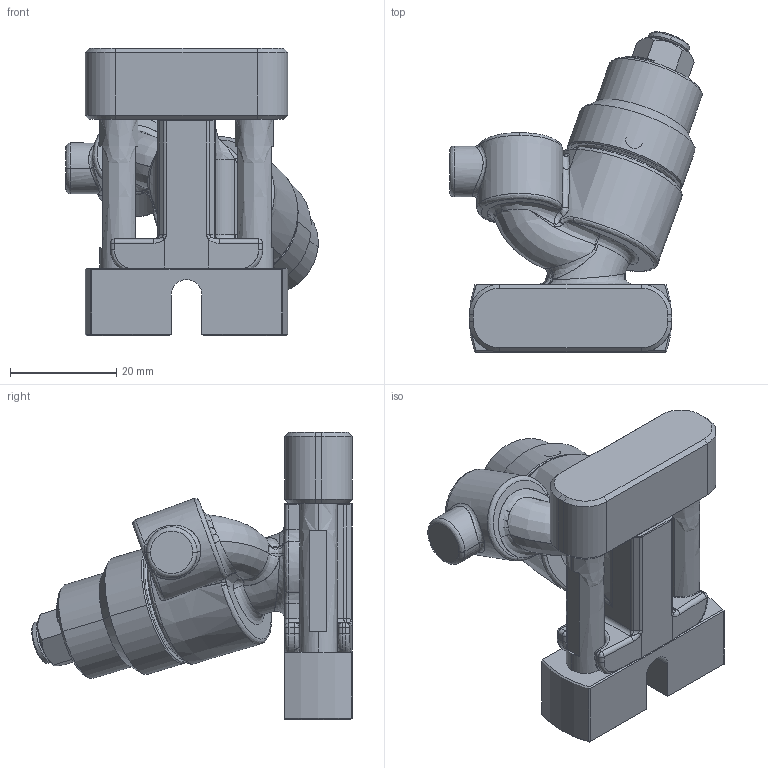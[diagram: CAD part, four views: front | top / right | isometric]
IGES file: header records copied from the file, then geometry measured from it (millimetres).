
Start section:  PTC IGES file: fxcc0001c-en-c.igs
Global section: file name: fxcc0001c-en-c.igs; native system: Creo Parametric by PTC Inc.; preprocessor: 2021072; author: qufmd1; organization: Unknown; date: 20220621.145902; units: inch
Bounding box: 47.4 x 60.21 x 53.98 mm (x, y, z)
Surface area: 14786.2 mm2 (no closed solid volume)
Topology: 0 solids, 0 shells, 296 faces, 1371 edges, 1371 vertices
Faces by surface type: revolution 155, bspline 139, extrusion 2
